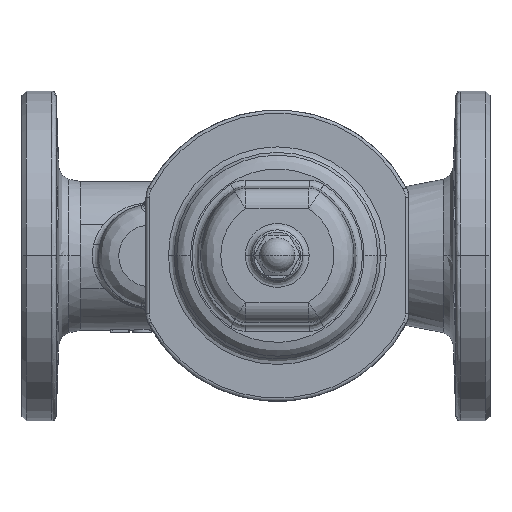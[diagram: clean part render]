
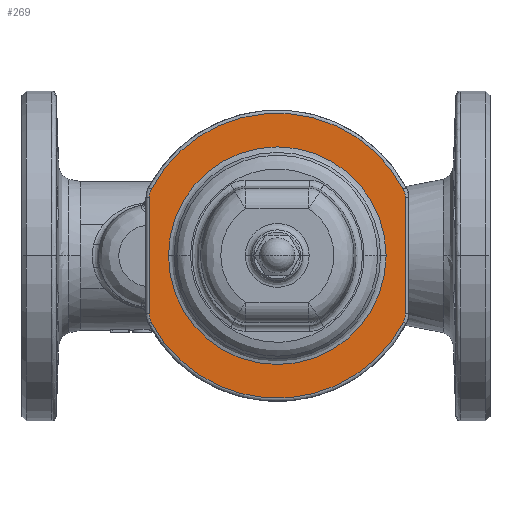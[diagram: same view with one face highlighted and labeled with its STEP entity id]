
A CAD part, top view. The second image highlights one B-rep face of the part: STEP entity #269.
In plain terms, the highlighted planar face has unit normal (0, 0, 1).
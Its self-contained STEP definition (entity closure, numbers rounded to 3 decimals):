
#269=ADVANCED_FACE('',(#1143,#1144),#1142,.T.);
#1142=PLANE('',#5768);
#1143=FACE_OUTER_BOUND('',#5769,.T.);
#1144=FACE_BOUND('',#5770,.T.);
#5765=CARTESIAN_POINT('',(-70.25,-77.,10.));
#5766=DIRECTION('',(0.,0.,1.));
#5767=DIRECTION('',(1.,0.,0.));
#5768=AXIS2_PLACEMENT_3D('',#5765,#5766,#5767);
#5769=EDGE_LOOP('',(#14318,#14319,#14320,#14321,#14322,#14323,#14324,#14325));
#5770=EDGE_LOOP('',(#14326,#14327));
#14318=ORIENTED_EDGE('',*,*,#16404,.T.);
#14319=ORIENTED_EDGE('',*,*,#16420,.T.);
#14320=ORIENTED_EDGE('',*,*,#16414,.T.);
#14321=ORIENTED_EDGE('',*,*,#16417,.T.);
#14322=ORIENTED_EDGE('',*,*,#16408,.T.);
#14323=ORIENTED_EDGE('',*,*,#16418,.T.);
#14324=ORIENTED_EDGE('',*,*,#16412,.T.);
#14325=ORIENTED_EDGE('',*,*,#16419,.T.);
#14326=ORIENTED_EDGE('',*,*,#16442,.T.);
#14327=ORIENTED_EDGE('',*,*,#16443,.T.);
#16404=EDGE_CURVE('',#17963,#17956,#17964,.T.);
#16408=EDGE_CURVE('',#17989,#17982,#17990,.T.);
#16412=EDGE_CURVE('',#18015,#18008,#18016,.T.);
#16414=EDGE_CURVE('',#18028,#18029,#18030,.T.);
#16417=EDGE_CURVE('',#18029,#17989,#18048,.T.);
#16418=EDGE_CURVE('',#17982,#18015,#18054,.T.);
#16419=EDGE_CURVE('',#18008,#17963,#18060,.T.);
#16420=EDGE_CURVE('',#17956,#18028,#18066,.T.);
#16442=EDGE_CURVE('',#18206,#18207,#18208,.T.);
#16443=EDGE_CURVE('',#18207,#18206,#18214,.T.);
#17956=VERTEX_POINT('',#25102);
#17963=VERTEX_POINT('',#25107);
#17964=LINE('',#25108,#25109);
#17982=VERTEX_POINT('',#25118);
#17989=VERTEX_POINT('',#25123);
#17990=LINE('',#25124,#25125);
#18008=VERTEX_POINT('',#25135);
#18015=VERTEX_POINT('',#25140);
#18016=CIRCLE('',#25144,67.);
#18028=VERTEX_POINT('',#25149);
#18029=VERTEX_POINT('',#25150);
#18030=CIRCLE('',#25154,67.);
#18048=CIRCLE('',#25166,8.5);
#18054=CIRCLE('',#25170,8.5);
#18060=CIRCLE('',#25174,8.5);
#18066=CIRCLE('',#25178,8.5);
#18206=VERTEX_POINT('',#25300);
#18207=VERTEX_POINT('',#25301);
#18208=CIRCLE('',#25305,51.155);
#18214=CIRCLE('',#25309,51.155);
#25102=CARTESIAN_POINT('',(-60.25,-27.28,10.));
#25107=CARTESIAN_POINT('',(-60.25,27.28,10.));
#25108=CARTESIAN_POINT('',(-60.25,27.28,10.));
#25109=VECTOR('',#25110,54.56);
#25110=DIRECTION('',(0.,-1.,0.));
#25118=CARTESIAN_POINT('',(60.25,27.28,10.));
#25123=CARTESIAN_POINT('',(60.25,-27.28,10.));
#25124=CARTESIAN_POINT('',(60.25,-27.28,10.));
#25125=VECTOR('',#25126,54.56);
#25126=DIRECTION('',(0.,1.,0.));
#25135=CARTESIAN_POINT('',(-59.269,31.244,10.));
#25140=CARTESIAN_POINT('',(59.269,31.244,10.));
#25141=CARTESIAN_POINT('',(0.,0.,10.));
#25142=DIRECTION('',(0.,0.,1.));
#25143=DIRECTION('',(-1.,0.,0.));
#25144=AXIS2_PLACEMENT_3D('',#25141,#25142,#25143);
#25149=CARTESIAN_POINT('',(-59.269,-31.244,10.));
#25150=CARTESIAN_POINT('',(59.269,-31.244,10.));
#25151=CARTESIAN_POINT('',(0.,0.,10.));
#25152=DIRECTION('',(0.,0.,1.));
#25153=DIRECTION('',(-1.,0.,0.));
#25154=AXIS2_PLACEMENT_3D('',#25151,#25152,#25153);
#25163=CARTESIAN_POINT('',(51.75,-27.28,10.));
#25164=DIRECTION('',(0.,0.,1.));
#25165=DIRECTION('',(-1.,0.,0.));
#25166=AXIS2_PLACEMENT_3D('',#25163,#25164,#25165);
#25167=CARTESIAN_POINT('',(51.75,27.28,10.));
#25168=DIRECTION('',(0.,0.,1.));
#25169=DIRECTION('',(-1.,0.,0.));
#25170=AXIS2_PLACEMENT_3D('',#25167,#25168,#25169);
#25171=CARTESIAN_POINT('',(-51.75,27.28,10.));
#25172=DIRECTION('',(0.,0.,1.));
#25173=DIRECTION('',(-1.,0.,0.));
#25174=AXIS2_PLACEMENT_3D('',#25171,#25172,#25173);
#25175=CARTESIAN_POINT('',(-51.75,-27.28,10.));
#25176=DIRECTION('',(0.,0.,1.));
#25177=DIRECTION('',(-1.,0.,0.));
#25178=AXIS2_PLACEMENT_3D('',#25175,#25176,#25177);
#25300=CARTESIAN_POINT('',(-51.155,0.,10.));
#25301=CARTESIAN_POINT('',(51.155,0.,10.));
#25302=CARTESIAN_POINT('',(0.,0.,10.));
#25303=DIRECTION('',(0.,0.,-1.));
#25304=DIRECTION('',(-1.,0.,0.));
#25305=AXIS2_PLACEMENT_3D('',#25302,#25303,#25304);
#25306=CARTESIAN_POINT('',(0.,0.,10.));
#25307=DIRECTION('',(0.,0.,-1.));
#25308=DIRECTION('',(-1.,0.,0.));
#25309=AXIS2_PLACEMENT_3D('',#25306,#25307,#25308);
